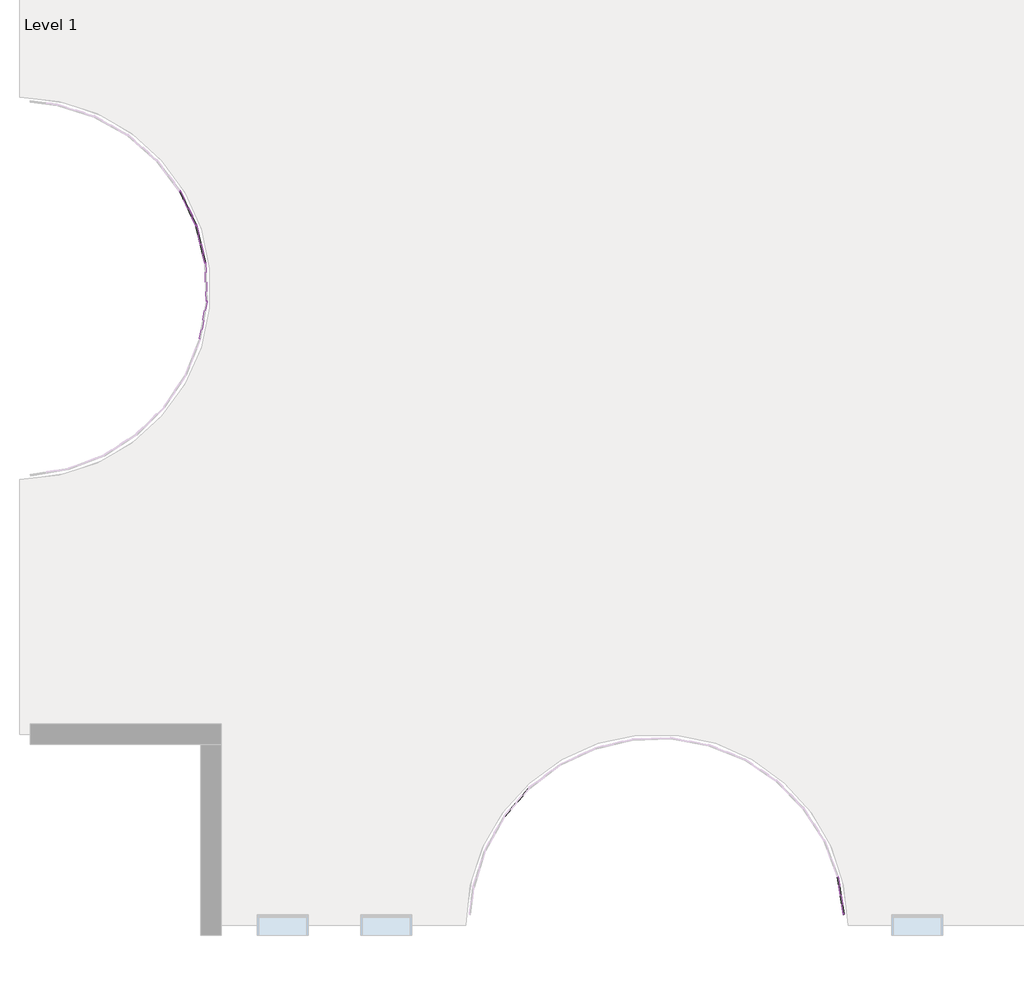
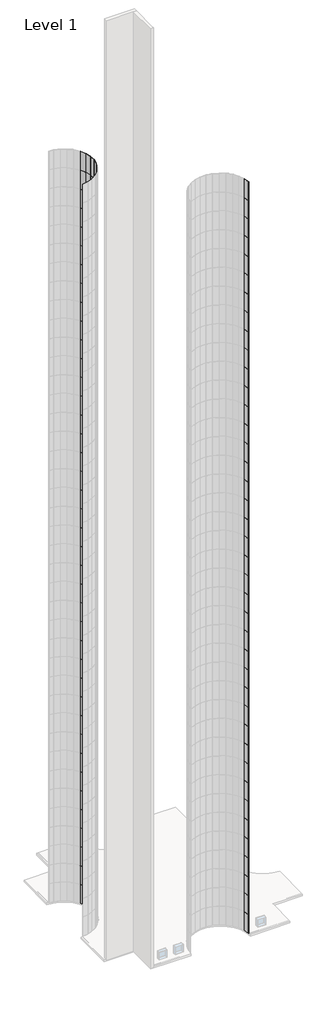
# One storey, part 6 of 19: 128 plates.
"""IFC4 building model written with IfcOpenShell, lengths in millimetres."""

from ifc_helpers import new_model, si_unit, origin, place, context, project, spatial, transform, mapped, element, save
from components import system_panel_glazed_d77d1ebf

model = new_model("IFC4")

# Units and contexts
model_context = context("Model", 3, world=origin())
ifc_project = project(units=[si_unit("LENGTHUNIT", "METRE", prefix="MILLI")], contexts=[model_context])

# Site, building, storey
site = spatial("IfcSite", under=ifc_project)
building = spatial("IfcBuilding", under=site)
storey = spatial("IfcBuildingStorey", under=building, Name="Level 1", Elevation=0.0)

# Plates
placement = place(None, origin())
system_panel_glazed_shape = system_panel_glazed_d77d1ebf(model_context)
element("IfcPlate", 1, ObjectType="System Panel : Glazed", at=placement, inside=storey, context=model_context, shape_type="MappedRepresentation", body=[
    mapped(system_panel_glazed_shape, transform((7886.1724907, -20726.1064319, 0.0), x_axis=(-0.1587098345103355, 0.9873252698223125, 0.0), y_axis=(-0.9873252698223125, -0.1587098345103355, 0.0), z_axis=(0.0, 0.0, 1.0))),
])
element("IfcPlate", 2, ObjectType="System Panel : Glazed", at=placement, inside=storey, context=model_context, shape_type="MappedRepresentation", body=[
    mapped(system_panel_glazed_shape, transform((182.349833, -18520.9170466, 0.0), x_axis=(-0.6571009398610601, -0.7538025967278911, 0.0), y_axis=(0.7538025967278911, -0.6571009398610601, 0.0), z_axis=(0.0, 0.0, 1.0))),
])
element("IfcPlate", 3, ObjectType="System Panel : Glazed", at=placement, inside=storey, context=model_context, shape_type="MappedRepresentation", body=[
    mapped(system_panel_glazed_shape, transform((7886.1724907, -20726.1064319, 3048.0), x_axis=(-0.1587098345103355, 0.9873252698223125, 0.0), y_axis=(-0.9873252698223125, -0.1587098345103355, 0.0), z_axis=(0.0, 0.0, 1.0))),
])
element("IfcPlate", 4, ObjectType="System Panel : Glazed", at=placement, inside=storey, context=model_context, shape_type="MappedRepresentation", body=[
    mapped(system_panel_glazed_shape, transform((7886.1724907, -20726.1064319, 6096.0), x_axis=(-0.1587098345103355, 0.9873252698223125, 0.0), y_axis=(-0.9873252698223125, -0.1587098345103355, 0.0), z_axis=(0.0, 0.0, 1.0))),
])
element("IfcPlate", 5, ObjectType="System Panel : Glazed", at=placement, inside=storey, context=model_context, shape_type="MappedRepresentation", body=[
    mapped(system_panel_glazed_shape, transform((7886.1724907, -20726.1064319, 9144.0), x_axis=(-0.1587098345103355, 0.9873252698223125, 0.0), y_axis=(-0.9873252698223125, -0.1587098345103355, 0.0), z_axis=(0.0, 0.0, 1.0))),
])
element("IfcPlate", 6, ObjectType="System Panel : Glazed", at=placement, inside=storey, context=model_context, shape_type="MappedRepresentation", body=[
    mapped(system_panel_glazed_shape, transform((7886.1724907, -20726.1064319, 12192.0), x_axis=(-0.1587098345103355, 0.9873252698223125, 0.0), y_axis=(-0.9873252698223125, -0.1587098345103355, 0.0), z_axis=(0.0, 0.0, 1.0))),
])
element("IfcPlate", 7, ObjectType="System Panel : Glazed", at=placement, inside=storey, context=model_context, shape_type="MappedRepresentation", body=[
    mapped(system_panel_glazed_shape, transform((7886.1724907, -20726.1064319, 15240.0), x_axis=(-0.1587098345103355, 0.9873252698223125, 0.0), y_axis=(-0.9873252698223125, -0.1587098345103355, 0.0), z_axis=(0.0, 0.0, 1.0))),
])
element("IfcPlate", 8, ObjectType="System Panel : Glazed", at=placement, inside=storey, context=model_context, shape_type="MappedRepresentation", body=[
    mapped(system_panel_glazed_shape, transform((7886.1724907, -20726.1064319, 18288.0), x_axis=(-0.15870983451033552, 0.9873252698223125, 0.0), y_axis=(-0.9873252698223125, -0.15870983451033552, 0.0), z_axis=(0.0, 0.0, 1.0))),
])
element("IfcPlate", 9, ObjectType="System Panel : Glazed", at=placement, inside=storey, context=model_context, shape_type="MappedRepresentation", body=[
    mapped(system_panel_glazed_shape, transform((7886.1724907, -20726.1064319, 21336.0), x_axis=(-0.1587098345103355, 0.9873252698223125, 0.0), y_axis=(-0.9873252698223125, -0.1587098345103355, 0.0), z_axis=(0.0, 0.0, 1.0))),
])
element("IfcPlate", 10, ObjectType="System Panel : Glazed", at=placement, inside=storey, context=model_context, shape_type="MappedRepresentation", body=[
    mapped(system_panel_glazed_shape, transform((7886.1724907, -20726.1064319, 24384.0), x_axis=(-0.1587098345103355, 0.9873252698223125, 0.0), y_axis=(-0.9873252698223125, -0.1587098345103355, 0.0), z_axis=(0.0, 0.0, 1.0))),
])
element("IfcPlate", 11, ObjectType="System Panel : Glazed", at=placement, inside=storey, context=model_context, shape_type="MappedRepresentation", body=[
    mapped(system_panel_glazed_shape, transform((7886.1724907, -20726.1064319, 27432.0), x_axis=(-0.1587098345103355, 0.9873252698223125, 0.0), y_axis=(-0.9873252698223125, -0.1587098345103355, 0.0), z_axis=(0.0, 0.0, 1.0))),
])
element("IfcPlate", 12, ObjectType="System Panel : Glazed", at=placement, inside=storey, context=model_context, shape_type="MappedRepresentation", body=[
    mapped(system_panel_glazed_shape, transform((7886.1724907, -20726.1064319, 30480.0), x_axis=(-0.1587098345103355, 0.9873252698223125, 0.0), y_axis=(-0.9873252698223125, -0.1587098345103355, 0.0), z_axis=(0.0, 0.0, 1.0))),
])
element("IfcPlate", 13, ObjectType="System Panel : Glazed", at=placement, inside=storey, context=model_context, shape_type="MappedRepresentation", body=[
    mapped(system_panel_glazed_shape, transform((7886.1724907, -20726.1064319, 33528.0), x_axis=(-0.1587098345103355, 0.9873252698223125, 0.0), y_axis=(-0.9873252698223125, -0.1587098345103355, 0.0), z_axis=(0.0, 0.0, 1.0))),
])
element("IfcPlate", 14, ObjectType="System Panel : Glazed", at=placement, inside=storey, context=model_context, shape_type="MappedRepresentation", body=[
    mapped(system_panel_glazed_shape, transform((7886.1724907, -20726.1064319, 36576.0), x_axis=(-0.1587098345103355, 0.9873252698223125, 0.0), y_axis=(-0.9873252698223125, -0.1587098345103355, 0.0), z_axis=(0.0, 0.0, 1.0))),
])
element("IfcPlate", 15, ObjectType="System Panel : Glazed", at=placement, inside=storey, context=model_context, shape_type="MappedRepresentation", body=[
    mapped(system_panel_glazed_shape, transform((7886.1724907, -20726.1064319, 39624.0), x_axis=(-0.1587098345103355, 0.9873252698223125, 0.0), y_axis=(-0.9873252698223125, -0.1587098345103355, 0.0), z_axis=(0.0, 0.0, 1.0))),
])
element("IfcPlate", 16, ObjectType="System Panel : Glazed", at=placement, inside=storey, context=model_context, shape_type="MappedRepresentation", body=[
    mapped(system_panel_glazed_shape, transform((7886.1724907, -20726.1064319, 42672.0), x_axis=(-0.1587098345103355, 0.9873252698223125, 0.0), y_axis=(-0.9873252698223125, -0.1587098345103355, 0.0), z_axis=(0.0, 0.0, 1.0))),
])
element("IfcPlate", 17, ObjectType="System Panel : Glazed", at=placement, inside=storey, context=model_context, shape_type="MappedRepresentation", body=[
    mapped(system_panel_glazed_shape, transform((7886.1724907, -20726.1064319, 45720.0), x_axis=(-0.1587098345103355, 0.9873252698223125, 0.0), y_axis=(-0.9873252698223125, -0.1587098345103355, 0.0), z_axis=(0.0, 0.0, 1.0))),
])
element("IfcPlate", 18, ObjectType="System Panel : Glazed", at=placement, inside=storey, context=model_context, shape_type="MappedRepresentation", body=[
    mapped(system_panel_glazed_shape, transform((7886.1724907, -20726.1064319, 48768.0), x_axis=(-0.1587098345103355, 0.9873252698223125, 0.0), y_axis=(-0.9873252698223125, -0.1587098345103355, 0.0), z_axis=(0.0, 0.0, 1.0))),
])
element("IfcPlate", 19, ObjectType="System Panel : Glazed", at=placement, inside=storey, context=model_context, shape_type="MappedRepresentation", body=[
    mapped(system_panel_glazed_shape, transform((7886.1724907, -20726.1064319, 51816.0), x_axis=(-0.1587098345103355, 0.9873252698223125, 0.0), y_axis=(-0.9873252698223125, -0.1587098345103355, 0.0), z_axis=(0.0, 0.0, 1.0))),
])
element("IfcPlate", 20, ObjectType="System Panel : Glazed", at=placement, inside=storey, context=model_context, shape_type="MappedRepresentation", body=[
    mapped(system_panel_glazed_shape, transform((7886.1724907, -20726.1064319, 54864.0), x_axis=(-0.1587098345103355, 0.9873252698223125, 0.0), y_axis=(-0.9873252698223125, -0.1587098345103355, 0.0), z_axis=(0.0, 0.0, 1.0))),
])
element("IfcPlate", 21, ObjectType="System Panel : Glazed", at=placement, inside=storey, context=model_context, shape_type="MappedRepresentation", body=[
    mapped(system_panel_glazed_shape, transform((7886.1724907, -20726.1064319, 57912.0), x_axis=(-0.1587098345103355, 0.9873252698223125, 0.0), y_axis=(-0.9873252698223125, -0.1587098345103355, 0.0), z_axis=(0.0, 0.0, 1.0))),
])
element("IfcPlate", 22, ObjectType="System Panel : Glazed", at=placement, inside=storey, context=model_context, shape_type="MappedRepresentation", body=[
    mapped(system_panel_glazed_shape, transform((7886.1724907, -20726.1064319, 60960.0), x_axis=(-0.1587098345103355, 0.9873252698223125, 0.0), y_axis=(-0.9873252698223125, -0.1587098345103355, 0.0), z_axis=(0.0, 0.0, 1.0))),
])
element("IfcPlate", 23, ObjectType="System Panel : Glazed", at=placement, inside=storey, context=model_context, shape_type="MappedRepresentation", body=[
    mapped(system_panel_glazed_shape, transform((7886.1724907, -20726.1064319, 64008.0), x_axis=(-0.1587098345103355, 0.9873252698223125, 0.0), y_axis=(-0.9873252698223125, -0.1587098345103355, 0.0), z_axis=(0.0, 0.0, 1.0))),
])
element("IfcPlate", 24, ObjectType="System Panel : Glazed", at=placement, inside=storey, context=model_context, shape_type="MappedRepresentation", body=[
    mapped(system_panel_glazed_shape, transform((7886.1724907, -20726.1064319, 67056.0), x_axis=(-0.1587098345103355, 0.9873252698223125, 0.0), y_axis=(-0.9873252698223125, -0.1587098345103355, 0.0), z_axis=(0.0, 0.0, 1.0))),
])
element("IfcPlate", 25, ObjectType="System Panel : Glazed", at=placement, inside=storey, context=model_context, shape_type="MappedRepresentation", body=[
    mapped(system_panel_glazed_shape, transform((7886.1724907, -20726.1064319, 70104.0), x_axis=(-0.1587098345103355, 0.9873252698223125, 0.0), y_axis=(-0.9873252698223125, -0.1587098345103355, 0.0), z_axis=(0.0, 0.0, 1.0))),
])
element("IfcPlate", 26, ObjectType="System Panel : Glazed", at=placement, inside=storey, context=model_context, shape_type="MappedRepresentation", body=[
    mapped(system_panel_glazed_shape, transform((7886.1724907, -20726.1064319, 73152.0), x_axis=(-0.1587098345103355, 0.9873252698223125, 0.0), y_axis=(-0.9873252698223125, -0.1587098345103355, 0.0), z_axis=(0.0, 0.0, 1.0))),
])
element("IfcPlate", 27, ObjectType="System Panel : Glazed", at=placement, inside=storey, context=model_context, shape_type="MappedRepresentation", body=[
    mapped(system_panel_glazed_shape, transform((7886.1724907, -20726.1064319, 76200.0), x_axis=(-0.1587098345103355, 0.9873252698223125, 0.0), y_axis=(-0.9873252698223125, -0.1587098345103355, 0.0), z_axis=(0.0, 0.0, 1.0))),
])
element("IfcPlate", 28, ObjectType="System Panel : Glazed", at=placement, inside=storey, context=model_context, shape_type="MappedRepresentation", body=[
    mapped(system_panel_glazed_shape, transform((7886.1724907, -20726.1064319, 79248.0), x_axis=(-0.1587098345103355, 0.9873252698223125, 0.0), y_axis=(-0.9873252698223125, -0.1587098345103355, 0.0), z_axis=(0.0, 0.0, 1.0))),
])
element("IfcPlate", 29, ObjectType="System Panel : Glazed", at=placement, inside=storey, context=model_context, shape_type="MappedRepresentation", body=[
    mapped(system_panel_glazed_shape, transform((7886.1724907, -20726.1064319, 82296.0), x_axis=(-0.1587098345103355, 0.9873252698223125, 0.0), y_axis=(-0.9873252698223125, -0.1587098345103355, 0.0), z_axis=(0.0, 0.0, 1.0))),
])
element("IfcPlate", 30, ObjectType="System Panel : Glazed", at=placement, inside=storey, context=model_context, shape_type="MappedRepresentation", body=[
    mapped(system_panel_glazed_shape, transform((7886.1724907, -20726.1064319, 85344.0), x_axis=(-0.1587098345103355, 0.9873252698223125, 0.0), y_axis=(-0.9873252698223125, -0.1587098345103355, 0.0), z_axis=(0.0, 0.0, 1.0))),
])
element("IfcPlate", 31, ObjectType="System Panel : Glazed", at=placement, inside=storey, context=model_context, shape_type="MappedRepresentation", body=[
    mapped(system_panel_glazed_shape, transform((7886.1724907, -20726.1064319, 88392.0), x_axis=(-0.1587098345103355, 0.9873252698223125, 0.0), y_axis=(-0.9873252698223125, -0.1587098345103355, 0.0), z_axis=(0.0, 0.0, 1.0))),
])
element("IfcPlate", 32, ObjectType="System Panel : Glazed", at=placement, inside=storey, context=model_context, shape_type="MappedRepresentation", body=[
    mapped(system_panel_glazed_shape, transform((7886.1724907, -20726.1064319, 91440.0), x_axis=(-0.1587098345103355, 0.9873252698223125, 0.0), y_axis=(-0.9873252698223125, -0.1587098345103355, 0.0), z_axis=(0.0, 0.0, 1.0))),
])
element("IfcPlate", 33, ObjectType="System Panel : Glazed", at=placement, inside=storey, context=model_context, shape_type="MappedRepresentation", body=[
    mapped(system_panel_glazed_shape, transform((7886.1724907, -20726.1064319, 94488.0), x_axis=(-0.1587098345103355, 0.9873252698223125, 0.0), y_axis=(-0.9873252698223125, -0.1587098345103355, 0.0), z_axis=(0.0, 0.0, 1.0))),
])
element("IfcPlate", 34, ObjectType="System Panel : Glazed", at=placement, inside=storey, context=model_context, shape_type="MappedRepresentation", body=[
    mapped(system_panel_glazed_shape, transform((7886.1724907, -20726.1064319, 97536.0), x_axis=(-0.1587098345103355, 0.9873252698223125, 0.0), y_axis=(-0.9873252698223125, -0.1587098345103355, 0.0), z_axis=(0.0, 0.0, 1.0))),
])
element("IfcPlate", 35, ObjectType="System Panel : Glazed", at=placement, inside=storey, context=model_context, shape_type="MappedRepresentation", body=[
    mapped(system_panel_glazed_shape, transform((7886.1724907, -20726.1064319, 100584.0), x_axis=(-0.1587098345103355, 0.9873252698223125, 0.0), y_axis=(-0.9873252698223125, -0.1587098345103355, 0.0), z_axis=(0.0, 0.0, 1.0))),
])
element("IfcPlate", 36, ObjectType="System Panel : Glazed", at=placement, inside=storey, context=model_context, shape_type="MappedRepresentation", body=[
    mapped(system_panel_glazed_shape, transform((-7420.4303916, -5153.6359648, 0.0), x_axis=(-0.23385091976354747, 0.9722724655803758, 0.0), y_axis=(-0.9722724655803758, -0.23385091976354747, 0.0), z_axis=(0.0, 0.0, 1.0))),
])
element("IfcPlate", 37, ObjectType="System Panel : Glazed", at=placement, inside=storey, context=model_context, shape_type="MappedRepresentation", body=[
    mapped(system_panel_glazed_shape, transform((-7722.9001162, -4295.8445199, 0.0), x_axis=(-0.42771890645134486, 0.9039117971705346, 0.0), y_axis=(-0.9039117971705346, -0.42771890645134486, 0.0), z_axis=(0.0, 0.0, 1.0))),
])
element("IfcPlate", 38, ObjectType="System Panel : Glazed", at=placement, inside=storey, context=model_context, shape_type="MappedRepresentation", body=[
    mapped(system_panel_glazed_shape, transform((-7420.4303916, -5153.6359648, 3048.0), x_axis=(-0.23385091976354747, 0.9722724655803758, 0.0), y_axis=(-0.9722724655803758, -0.23385091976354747, 0.0), z_axis=(0.0, 0.0, 1.0))),
])
element("IfcPlate", 39, ObjectType="System Panel : Glazed", at=placement, inside=storey, context=model_context, shape_type="MappedRepresentation", body=[
    mapped(system_panel_glazed_shape, transform((-7722.9001162, -4295.8445199, 3048.0), x_axis=(-0.42771890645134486, 0.9039117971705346, 0.0), y_axis=(-0.9039117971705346, -0.42771890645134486, 0.0), z_axis=(0.0, 0.0, 1.0))),
])
element("IfcPlate", 40, ObjectType="System Panel : Glazed", at=placement, inside=storey, context=model_context, shape_type="MappedRepresentation", body=[
    mapped(system_panel_glazed_shape, transform((-7420.4303916, -5153.6359648, 6096.0), x_axis=(-0.23385091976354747, 0.9722724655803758, 0.0), y_axis=(-0.9722724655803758, -0.23385091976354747, 0.0), z_axis=(0.0, 0.0, 1.0))),
])
element("IfcPlate", 41, ObjectType="System Panel : Glazed", at=placement, inside=storey, context=model_context, shape_type="MappedRepresentation", body=[
    mapped(system_panel_glazed_shape, transform((-7722.9001162, -4295.8445199, 6096.0), x_axis=(-0.42771890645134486, 0.9039117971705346, 0.0), y_axis=(-0.9039117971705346, -0.42771890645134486, 0.0), z_axis=(0.0, 0.0, 1.0))),
])
element("IfcPlate", 42, ObjectType="System Panel : Glazed", at=placement, inside=storey, context=model_context, shape_type="MappedRepresentation", body=[
    mapped(system_panel_glazed_shape, transform((-7420.4303916, -5153.6359648, 9144.0), x_axis=(-0.23385091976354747, 0.9722724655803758, 0.0), y_axis=(-0.9722724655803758, -0.23385091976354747, 0.0), z_axis=(0.0, 0.0, 1.0))),
])
element("IfcPlate", 43, ObjectType="System Panel : Glazed", at=placement, inside=storey, context=model_context, shape_type="MappedRepresentation", body=[
    mapped(system_panel_glazed_shape, transform((-7722.9001162, -4295.8445199, 9144.0), x_axis=(-0.42771890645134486, 0.9039117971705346, 0.0), y_axis=(-0.9039117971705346, -0.42771890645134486, 0.0), z_axis=(0.0, 0.0, 1.0))),
])
element("IfcPlate", 44, ObjectType="System Panel : Glazed", at=placement, inside=storey, context=model_context, shape_type="MappedRepresentation", body=[
    mapped(system_panel_glazed_shape, transform((-7420.4303916, -5153.6359648, 12192.0), x_axis=(-0.23385091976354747, 0.9722724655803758, 0.0), y_axis=(-0.9722724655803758, -0.23385091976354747, 0.0), z_axis=(0.0, 0.0, 1.0))),
])
element("IfcPlate", 45, ObjectType="System Panel : Glazed", at=placement, inside=storey, context=model_context, shape_type="MappedRepresentation", body=[
    mapped(system_panel_glazed_shape, transform((-7722.9001162, -4295.8445199, 12192.0), x_axis=(-0.42771890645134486, 0.9039117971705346, 0.0), y_axis=(-0.9039117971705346, -0.42771890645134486, 0.0), z_axis=(0.0, 0.0, 1.0))),
])
element("IfcPlate", 46, ObjectType="System Panel : Glazed", at=placement, inside=storey, context=model_context, shape_type="MappedRepresentation", body=[
    mapped(system_panel_glazed_shape, transform((-7420.4303916, -5153.6359648, 15240.0), x_axis=(-0.23385091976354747, 0.9722724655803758, 0.0), y_axis=(-0.9722724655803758, -0.23385091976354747, 0.0), z_axis=(0.0, 0.0, 1.0))),
])
element("IfcPlate", 47, ObjectType="System Panel : Glazed", at=placement, inside=storey, context=model_context, shape_type="MappedRepresentation", body=[
    mapped(system_panel_glazed_shape, transform((-7722.9001162, -4295.8445199, 15240.0), x_axis=(-0.42771890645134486, 0.9039117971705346, 0.0), y_axis=(-0.9039117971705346, -0.42771890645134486, 0.0), z_axis=(0.0, 0.0, 1.0))),
])
element("IfcPlate", 48, ObjectType="System Panel : Glazed", at=placement, inside=storey, context=model_context, shape_type="MappedRepresentation", body=[
    mapped(system_panel_glazed_shape, transform((-7420.4303916, -5153.6359648, 18288.0), x_axis=(-0.2338509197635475, 0.9722724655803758, 0.0), y_axis=(-0.9722724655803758, -0.2338509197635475, 0.0), z_axis=(0.0, 0.0, 1.0))),
])
element("IfcPlate", 49, ObjectType="System Panel : Glazed", at=placement, inside=storey, context=model_context, shape_type="MappedRepresentation", body=[
    mapped(system_panel_glazed_shape, transform((-7722.9001162, -4295.8445199, 18288.0), x_axis=(-0.42771890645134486, 0.9039117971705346, 0.0), y_axis=(-0.9039117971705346, -0.42771890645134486, 0.0), z_axis=(0.0, 0.0, 1.0))),
])
element("IfcPlate", 50, ObjectType="System Panel : Glazed", at=placement, inside=storey, context=model_context, shape_type="MappedRepresentation", body=[
    mapped(system_panel_glazed_shape, transform((-7420.4303916, -5153.6359648, 21336.0), x_axis=(-0.23385091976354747, 0.9722724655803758, 0.0), y_axis=(-0.9722724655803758, -0.23385091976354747, 0.0), z_axis=(0.0, 0.0, 1.0))),
])
element("IfcPlate", 51, ObjectType="System Panel : Glazed", at=placement, inside=storey, context=model_context, shape_type="MappedRepresentation", body=[
    mapped(system_panel_glazed_shape, transform((-7722.9001162, -4295.8445199, 21336.0), x_axis=(-0.42771890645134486, 0.9039117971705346, 0.0), y_axis=(-0.9039117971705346, -0.42771890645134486, 0.0), z_axis=(0.0, 0.0, 1.0))),
])
element("IfcPlate", 52, ObjectType="System Panel : Glazed", at=placement, inside=storey, context=model_context, shape_type="MappedRepresentation", body=[
    mapped(system_panel_glazed_shape, transform((-7420.4303916, -5153.6359648, 24384.0), x_axis=(-0.23385091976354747, 0.9722724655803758, 0.0), y_axis=(-0.9722724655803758, -0.23385091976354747, 0.0), z_axis=(0.0, 0.0, 1.0))),
])
element("IfcPlate", 53, ObjectType="System Panel : Glazed", at=placement, inside=storey, context=model_context, shape_type="MappedRepresentation", body=[
    mapped(system_panel_glazed_shape, transform((-7722.9001162, -4295.8445199, 24384.0), x_axis=(-0.42771890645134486, 0.9039117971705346, 0.0), y_axis=(-0.9039117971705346, -0.42771890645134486, 0.0), z_axis=(0.0, 0.0, 1.0))),
])
element("IfcPlate", 54, ObjectType="System Panel : Glazed", at=placement, inside=storey, context=model_context, shape_type="MappedRepresentation", body=[
    mapped(system_panel_glazed_shape, transform((-7420.4303916, -5153.6359648, 27432.0), x_axis=(-0.23385091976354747, 0.9722724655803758, 0.0), y_axis=(-0.9722724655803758, -0.23385091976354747, 0.0), z_axis=(0.0, 0.0, 1.0))),
])
element("IfcPlate", 55, ObjectType="System Panel : Glazed", at=placement, inside=storey, context=model_context, shape_type="MappedRepresentation", body=[
    mapped(system_panel_glazed_shape, transform((-7722.9001162, -4295.8445199, 27432.0), x_axis=(-0.42771890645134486, 0.9039117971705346, 0.0), y_axis=(-0.9039117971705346, -0.42771890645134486, 0.0), z_axis=(0.0, 0.0, 1.0))),
])
element("IfcPlate", 56, ObjectType="System Panel : Glazed", at=placement, inside=storey, context=model_context, shape_type="MappedRepresentation", body=[
    mapped(system_panel_glazed_shape, transform((-7420.4303916, -5153.6359648, 30480.0), x_axis=(-0.23385091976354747, 0.9722724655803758, 0.0), y_axis=(-0.9722724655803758, -0.23385091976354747, 0.0), z_axis=(0.0, 0.0, 1.0))),
])
element("IfcPlate", 57, ObjectType="System Panel : Glazed", at=placement, inside=storey, context=model_context, shape_type="MappedRepresentation", body=[
    mapped(system_panel_glazed_shape, transform((-7722.9001162, -4295.8445199, 30480.0), x_axis=(-0.42771890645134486, 0.9039117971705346, 0.0), y_axis=(-0.9039117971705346, -0.42771890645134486, 0.0), z_axis=(0.0, 0.0, 1.0))),
])
element("IfcPlate", 58, ObjectType="System Panel : Glazed", at=placement, inside=storey, context=model_context, shape_type="MappedRepresentation", body=[
    mapped(system_panel_glazed_shape, transform((-7420.4303916, -5153.6359648, 33528.0), x_axis=(-0.23385091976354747, 0.9722724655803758, 0.0), y_axis=(-0.9722724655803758, -0.23385091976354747, 0.0), z_axis=(0.0, 0.0, 1.0))),
])
element("IfcPlate", 59, ObjectType="System Panel : Glazed", at=placement, inside=storey, context=model_context, shape_type="MappedRepresentation", body=[
    mapped(system_panel_glazed_shape, transform((-7722.9001162, -4295.8445199, 33528.0), x_axis=(-0.42771890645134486, 0.9039117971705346, 0.0), y_axis=(-0.9039117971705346, -0.42771890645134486, 0.0), z_axis=(0.0, 0.0, 1.0))),
])
element("IfcPlate", 60, ObjectType="System Panel : Glazed", at=placement, inside=storey, context=model_context, shape_type="MappedRepresentation", body=[
    mapped(system_panel_glazed_shape, transform((-7420.4303916, -5153.6359648, 36576.0), x_axis=(-0.23385091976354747, 0.9722724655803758, 0.0), y_axis=(-0.9722724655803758, -0.23385091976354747, 0.0), z_axis=(0.0, 0.0, 1.0))),
])
element("IfcPlate", 61, ObjectType="System Panel : Glazed", at=placement, inside=storey, context=model_context, shape_type="MappedRepresentation", body=[
    mapped(system_panel_glazed_shape, transform((-7722.9001162, -4295.8445199, 36576.0), x_axis=(-0.42771890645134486, 0.9039117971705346, 0.0), y_axis=(-0.9039117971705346, -0.42771890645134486, 0.0), z_axis=(0.0, 0.0, 1.0))),
])
element("IfcPlate", 62, ObjectType="System Panel : Glazed", at=placement, inside=storey, context=model_context, shape_type="MappedRepresentation", body=[
    mapped(system_panel_glazed_shape, transform((-7420.4303916, -5153.6359648, 39624.0), x_axis=(-0.23385091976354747, 0.9722724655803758, 0.0), y_axis=(-0.9722724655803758, -0.23385091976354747, 0.0), z_axis=(0.0, 0.0, 1.0))),
])
element("IfcPlate", 63, ObjectType="System Panel : Glazed", at=placement, inside=storey, context=model_context, shape_type="MappedRepresentation", body=[
    mapped(system_panel_glazed_shape, transform((-7722.9001162, -4295.8445199, 39624.0), x_axis=(-0.42771890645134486, 0.9039117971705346, 0.0), y_axis=(-0.9039117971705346, -0.42771890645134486, 0.0), z_axis=(0.0, 0.0, 1.0))),
])
element("IfcPlate", 64, ObjectType="System Panel : Glazed", at=placement, inside=storey, context=model_context, shape_type="MappedRepresentation", body=[
    mapped(system_panel_glazed_shape, transform((-7420.4303916, -5153.6359648, 42672.0), x_axis=(-0.23385091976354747, 0.9722724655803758, 0.0), y_axis=(-0.9722724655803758, -0.23385091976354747, 0.0), z_axis=(0.0, 0.0, 1.0))),
])
element("IfcPlate", 65, ObjectType="System Panel : Glazed", at=placement, inside=storey, context=model_context, shape_type="MappedRepresentation", body=[
    mapped(system_panel_glazed_shape, transform((-7722.9001162, -4295.8445199, 42672.0), x_axis=(-0.42771890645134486, 0.9039117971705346, 0.0), y_axis=(-0.9039117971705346, -0.42771890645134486, 0.0), z_axis=(0.0, 0.0, 1.0))),
])
element("IfcPlate", 66, ObjectType="System Panel : Glazed", at=placement, inside=storey, context=model_context, shape_type="MappedRepresentation", body=[
    mapped(system_panel_glazed_shape, transform((-7420.4303916, -5153.6359648, 45720.0), x_axis=(-0.23385091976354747, 0.9722724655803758, 0.0), y_axis=(-0.9722724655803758, -0.23385091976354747, 0.0), z_axis=(0.0, 0.0, 1.0))),
])
element("IfcPlate", 67, ObjectType="System Panel : Glazed", at=placement, inside=storey, context=model_context, shape_type="MappedRepresentation", body=[
    mapped(system_panel_glazed_shape, transform((-7722.9001162, -4295.8445199, 45720.0), x_axis=(-0.42771890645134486, 0.9039117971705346, 0.0), y_axis=(-0.9039117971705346, -0.42771890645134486, 0.0), z_axis=(0.0, 0.0, 1.0))),
])
element("IfcPlate", 68, ObjectType="System Panel : Glazed", at=placement, inside=storey, context=model_context, shape_type="MappedRepresentation", body=[
    mapped(system_panel_glazed_shape, transform((-7420.4303916, -5153.6359648, 48768.0), x_axis=(-0.23385091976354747, 0.9722724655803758, 0.0), y_axis=(-0.9722724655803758, -0.23385091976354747, 0.0), z_axis=(0.0, 0.0, 1.0))),
])
element("IfcPlate", 69, ObjectType="System Panel : Glazed", at=placement, inside=storey, context=model_context, shape_type="MappedRepresentation", body=[
    mapped(system_panel_glazed_shape, transform((-7722.9001162, -4295.8445199, 48768.0), x_axis=(-0.42771890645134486, 0.9039117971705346, 0.0), y_axis=(-0.9039117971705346, -0.42771890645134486, 0.0), z_axis=(0.0, 0.0, 1.0))),
])
element("IfcPlate", 70, ObjectType="System Panel : Glazed", at=placement, inside=storey, context=model_context, shape_type="MappedRepresentation", body=[
    mapped(system_panel_glazed_shape, transform((-7420.4303916, -5153.6359648, 51816.0), x_axis=(-0.23385091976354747, 0.9722724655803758, 0.0), y_axis=(-0.9722724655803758, -0.23385091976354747, 0.0), z_axis=(0.0, 0.0, 1.0))),
])
element("IfcPlate", 71, ObjectType="System Panel : Glazed", at=placement, inside=storey, context=model_context, shape_type="MappedRepresentation", body=[
    mapped(system_panel_glazed_shape, transform((-7722.9001162, -4295.8445199, 51816.0), x_axis=(-0.42771890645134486, 0.9039117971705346, 0.0), y_axis=(-0.9039117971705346, -0.42771890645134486, 0.0), z_axis=(0.0, 0.0, 1.0))),
])
element("IfcPlate", 72, ObjectType="System Panel : Glazed", at=placement, inside=storey, context=model_context, shape_type="MappedRepresentation", body=[
    mapped(system_panel_glazed_shape, transform((-7420.4303916, -5153.6359648, 54864.0), x_axis=(-0.23385091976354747, 0.9722724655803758, 0.0), y_axis=(-0.9722724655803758, -0.23385091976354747, 0.0), z_axis=(0.0, 0.0, 1.0))),
])
element("IfcPlate", 73, ObjectType="System Panel : Glazed", at=placement, inside=storey, context=model_context, shape_type="MappedRepresentation", body=[
    mapped(system_panel_glazed_shape, transform((-7722.9001162, -4295.8445199, 54864.0), x_axis=(-0.42771890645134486, 0.9039117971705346, 0.0), y_axis=(-0.9039117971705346, -0.42771890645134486, 0.0), z_axis=(0.0, 0.0, 1.0))),
])
element("IfcPlate", 74, ObjectType="System Panel : Glazed", at=placement, inside=storey, context=model_context, shape_type="MappedRepresentation", body=[
    mapped(system_panel_glazed_shape, transform((-7420.4303916, -5153.6359648, 57912.0), x_axis=(-0.23385091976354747, 0.9722724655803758, 0.0), y_axis=(-0.9722724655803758, -0.23385091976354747, 0.0), z_axis=(0.0, 0.0, 1.0))),
])
element("IfcPlate", 75, ObjectType="System Panel : Glazed", at=placement, inside=storey, context=model_context, shape_type="MappedRepresentation", body=[
    mapped(system_panel_glazed_shape, transform((-7722.9001162, -4295.8445199, 57912.0), x_axis=(-0.42771890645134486, 0.9039117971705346, 0.0), y_axis=(-0.9039117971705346, -0.42771890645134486, 0.0), z_axis=(0.0, 0.0, 1.0))),
])
element("IfcPlate", 76, ObjectType="System Panel : Glazed", at=placement, inside=storey, context=model_context, shape_type="MappedRepresentation", body=[
    mapped(system_panel_glazed_shape, transform((-7420.4303916, -5153.6359648, 60960.0), x_axis=(-0.23385091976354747, 0.9722724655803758, 0.0), y_axis=(-0.9722724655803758, -0.23385091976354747, 0.0), z_axis=(0.0, 0.0, 1.0))),
])
element("IfcPlate", 77, ObjectType="System Panel : Glazed", at=placement, inside=storey, context=model_context, shape_type="MappedRepresentation", body=[
    mapped(system_panel_glazed_shape, transform((-7722.9001162, -4295.8445199, 60960.0), x_axis=(-0.42771890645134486, 0.9039117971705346, 0.0), y_axis=(-0.9039117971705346, -0.42771890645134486, 0.0), z_axis=(0.0, 0.0, 1.0))),
])
element("IfcPlate", 78, ObjectType="System Panel : Glazed", at=placement, inside=storey, context=model_context, shape_type="MappedRepresentation", body=[
    mapped(system_panel_glazed_shape, transform((-7420.4303916, -5153.6359648, 64008.0), x_axis=(-0.23385091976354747, 0.9722724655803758, 0.0), y_axis=(-0.9722724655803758, -0.23385091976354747, 0.0), z_axis=(0.0, 0.0, 1.0))),
])
element("IfcPlate", 79, ObjectType="System Panel : Glazed", at=placement, inside=storey, context=model_context, shape_type="MappedRepresentation", body=[
    mapped(system_panel_glazed_shape, transform((-7722.9001162, -4295.8445199, 64008.0), x_axis=(-0.42771890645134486, 0.9039117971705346, 0.0), y_axis=(-0.9039117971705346, -0.42771890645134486, 0.0), z_axis=(0.0, 0.0, 1.0))),
])
element("IfcPlate", 80, ObjectType="System Panel : Glazed", at=placement, inside=storey, context=model_context, shape_type="MappedRepresentation", body=[
    mapped(system_panel_glazed_shape, transform((-7420.4303916, -5153.6359648, 67056.0), x_axis=(-0.23385091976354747, 0.9722724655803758, 0.0), y_axis=(-0.9722724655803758, -0.23385091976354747, 0.0), z_axis=(0.0, 0.0, 1.0))),
])
element("IfcPlate", 81, ObjectType="System Panel : Glazed", at=placement, inside=storey, context=model_context, shape_type="MappedRepresentation", body=[
    mapped(system_panel_glazed_shape, transform((-7722.9001162, -4295.8445199, 67056.0), x_axis=(-0.42771890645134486, 0.9039117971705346, 0.0), y_axis=(-0.9039117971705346, -0.42771890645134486, 0.0), z_axis=(0.0, 0.0, 1.0))),
])
element("IfcPlate", 82, ObjectType="System Panel : Glazed", at=placement, inside=storey, context=model_context, shape_type="MappedRepresentation", body=[
    mapped(system_panel_glazed_shape, transform((-7420.4303916, -5153.6359648, 70104.0), x_axis=(-0.23385091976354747, 0.9722724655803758, 0.0), y_axis=(-0.9722724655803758, -0.23385091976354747, 0.0), z_axis=(0.0, 0.0, 1.0))),
])
element("IfcPlate", 83, ObjectType="System Panel : Glazed", at=placement, inside=storey, context=model_context, shape_type="MappedRepresentation", body=[
    mapped(system_panel_glazed_shape, transform((-7722.9001162, -4295.8445199, 70104.0), x_axis=(-0.42771890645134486, 0.9039117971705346, 0.0), y_axis=(-0.9039117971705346, -0.42771890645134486, 0.0), z_axis=(0.0, 0.0, 1.0))),
])
element("IfcPlate", 84, ObjectType="System Panel : Glazed", at=placement, inside=storey, context=model_context, shape_type="MappedRepresentation", body=[
    mapped(system_panel_glazed_shape, transform((-7420.4303916, -5153.6359648, 73152.0), x_axis=(-0.23385091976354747, 0.9722724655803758, 0.0), y_axis=(-0.9722724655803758, -0.23385091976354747, 0.0), z_axis=(0.0, 0.0, 1.0))),
])
element("IfcPlate", 85, ObjectType="System Panel : Glazed", at=placement, inside=storey, context=model_context, shape_type="MappedRepresentation", body=[
    mapped(system_panel_glazed_shape, transform((-7722.9001162, -4295.8445199, 73152.0), x_axis=(-0.42771890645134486, 0.9039117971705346, 0.0), y_axis=(-0.9039117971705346, -0.42771890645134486, 0.0), z_axis=(0.0, 0.0, 1.0))),
])
element("IfcPlate", 86, ObjectType="System Panel : Glazed", at=placement, inside=storey, context=model_context, shape_type="MappedRepresentation", body=[
    mapped(system_panel_glazed_shape, transform((-7420.4303916, -5153.6359648, 76200.0), x_axis=(-0.23385091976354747, 0.9722724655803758, 0.0), y_axis=(-0.9722724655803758, -0.23385091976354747, 0.0), z_axis=(0.0, 0.0, 1.0))),
])
element("IfcPlate", 87, ObjectType="System Panel : Glazed", at=placement, inside=storey, context=model_context, shape_type="MappedRepresentation", body=[
    mapped(system_panel_glazed_shape, transform((-7722.9001162, -4295.8445199, 76200.0), x_axis=(-0.42771890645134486, 0.9039117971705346, 0.0), y_axis=(-0.9039117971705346, -0.42771890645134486, 0.0), z_axis=(0.0, 0.0, 1.0))),
])
element("IfcPlate", 88, ObjectType="System Panel : Glazed", at=placement, inside=storey, context=model_context, shape_type="MappedRepresentation", body=[
    mapped(system_panel_glazed_shape, transform((-7420.4303916, -5153.6359648, 79248.0), x_axis=(-0.23385091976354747, 0.9722724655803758, 0.0), y_axis=(-0.9722724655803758, -0.23385091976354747, 0.0), z_axis=(0.0, 0.0, 1.0))),
])
element("IfcPlate", 89, ObjectType="System Panel : Glazed", at=placement, inside=storey, context=model_context, shape_type="MappedRepresentation", body=[
    mapped(system_panel_glazed_shape, transform((-7722.9001162, -4295.8445199, 79248.0), x_axis=(-0.42771890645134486, 0.9039117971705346, 0.0), y_axis=(-0.9039117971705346, -0.42771890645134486, 0.0), z_axis=(0.0, 0.0, 1.0))),
])
element("IfcPlate", 90, ObjectType="System Panel : Glazed", at=placement, inside=storey, context=model_context, shape_type="MappedRepresentation", body=[
    mapped(system_panel_glazed_shape, transform((-7420.4303916, -5153.6359648, 82296.0), x_axis=(-0.23385091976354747, 0.9722724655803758, 0.0), y_axis=(-0.9722724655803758, -0.23385091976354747, 0.0), z_axis=(0.0, 0.0, 1.0))),
])
element("IfcPlate", 91, ObjectType="System Panel : Glazed", at=placement, inside=storey, context=model_context, shape_type="MappedRepresentation", body=[
    mapped(system_panel_glazed_shape, transform((-7722.9001162, -4295.8445199, 82296.0), x_axis=(-0.42771890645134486, 0.9039117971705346, 0.0), y_axis=(-0.9039117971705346, -0.42771890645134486, 0.0), z_axis=(0.0, 0.0, 1.0))),
])
element("IfcPlate", 92, ObjectType="System Panel : Glazed", at=placement, inside=storey, context=model_context, shape_type="MappedRepresentation", body=[
    mapped(system_panel_glazed_shape, transform((-7420.4303916, -5153.6359648, 85344.0), x_axis=(-0.23385091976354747, 0.9722724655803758, 0.0), y_axis=(-0.9722724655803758, -0.23385091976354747, 0.0), z_axis=(0.0, 0.0, 1.0))),
])
element("IfcPlate", 93, ObjectType="System Panel : Glazed", at=placement, inside=storey, context=model_context, shape_type="MappedRepresentation", body=[
    mapped(system_panel_glazed_shape, transform((-7722.9001162, -4295.8445199, 85344.0), x_axis=(-0.42771890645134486, 0.9039117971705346, 0.0), y_axis=(-0.9039117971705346, -0.42771890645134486, 0.0), z_axis=(0.0, 0.0, 1.0))),
])
element("IfcPlate", 94, ObjectType="System Panel : Glazed", at=placement, inside=storey, context=model_context, shape_type="MappedRepresentation", body=[
    mapped(system_panel_glazed_shape, transform((-7420.4303916, -5153.6359648, 88392.0), x_axis=(-0.23385091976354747, 0.9722724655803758, 0.0), y_axis=(-0.9722724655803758, -0.23385091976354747, 0.0), z_axis=(0.0, 0.0, 1.0))),
])
element("IfcPlate", 95, ObjectType="System Panel : Glazed", at=placement, inside=storey, context=model_context, shape_type="MappedRepresentation", body=[
    mapped(system_panel_glazed_shape, transform((-7722.9001162, -4295.8445199, 88392.0), x_axis=(-0.42771890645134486, 0.9039117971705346, 0.0), y_axis=(-0.9039117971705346, -0.42771890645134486, 0.0), z_axis=(0.0, 0.0, 1.0))),
])
element("IfcPlate", 96, ObjectType="System Panel : Glazed", at=placement, inside=storey, context=model_context, shape_type="MappedRepresentation", body=[
    mapped(system_panel_glazed_shape, transform((-7420.4303916, -5153.6359648, 91440.0), x_axis=(-0.23385091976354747, 0.9722724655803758, 0.0), y_axis=(-0.9722724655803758, -0.23385091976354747, 0.0), z_axis=(0.0, 0.0, 1.0))),
])
element("IfcPlate", 97, ObjectType="System Panel : Glazed", at=placement, inside=storey, context=model_context, shape_type="MappedRepresentation", body=[
    mapped(system_panel_glazed_shape, transform((-7722.9001162, -4295.8445199, 91440.0), x_axis=(-0.42771890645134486, 0.9039117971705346, 0.0), y_axis=(-0.9039117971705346, -0.42771890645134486, 0.0), z_axis=(0.0, 0.0, 1.0))),
])
element("IfcPlate", 98, ObjectType="System Panel : Glazed", at=placement, inside=storey, context=model_context, shape_type="MappedRepresentation", body=[
    mapped(system_panel_glazed_shape, transform((-7420.4303916, -5153.6359648, 94488.0), x_axis=(-0.23385091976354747, 0.9722724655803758, 0.0), y_axis=(-0.9722724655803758, -0.23385091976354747, 0.0), z_axis=(0.0, 0.0, 1.0))),
])
element("IfcPlate", 99, ObjectType="System Panel : Glazed", at=placement, inside=storey, context=model_context, shape_type="MappedRepresentation", body=[
    mapped(system_panel_glazed_shape, transform((-7722.9001162, -4295.8445199, 94488.0), x_axis=(-0.42771890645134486, 0.9039117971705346, 0.0), y_axis=(-0.9039117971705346, -0.42771890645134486, 0.0), z_axis=(0.0, 0.0, 1.0))),
])
element("IfcPlate", 100, ObjectType="System Panel : Glazed", at=placement, inside=storey, context=model_context, shape_type="MappedRepresentation", body=[
    mapped(system_panel_glazed_shape, transform((-7420.4303916, -5153.6359648, 97536.0), x_axis=(-0.23385091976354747, 0.9722724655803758, 0.0), y_axis=(-0.9722724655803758, -0.23385091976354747, 0.0), z_axis=(0.0, 0.0, 1.0))),
])
element("IfcPlate", 101, ObjectType="System Panel : Glazed", at=placement, inside=storey, context=model_context, shape_type="MappedRepresentation", body=[
    mapped(system_panel_glazed_shape, transform((-7722.9001162, -4295.8445199, 97536.0), x_axis=(-0.42771890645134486, 0.9039117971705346, 0.0), y_axis=(-0.9039117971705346, -0.42771890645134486, 0.0), z_axis=(0.0, 0.0, 1.0))),
])
element("IfcPlate", 102, ObjectType="System Panel : Glazed", at=placement, inside=storey, context=model_context, shape_type="MappedRepresentation", body=[
    mapped(system_panel_glazed_shape, transform((-7420.4303916, -5153.6359648, 100584.0), x_axis=(-0.23385091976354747, 0.9722724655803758, 0.0), y_axis=(-0.9722724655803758, -0.23385091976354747, 0.0), z_axis=(0.0, 0.0, 1.0))),
])
element("IfcPlate", 103, ObjectType="System Panel : Glazed", at=placement, inside=storey, context=model_context, shape_type="MappedRepresentation", body=[
    mapped(system_panel_glazed_shape, transform((-7722.9001162, -4295.8445199, 100584.0), x_axis=(-0.42771890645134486, 0.9039117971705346, 0.0), y_axis=(-0.9039117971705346, -0.42771890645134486, 0.0), z_axis=(0.0, 0.0, 1.0))),
])
element("IfcPlate", 104, ObjectType="System Panel : Glazed", at=placement, inside=storey, context=model_context, shape_type="MappedRepresentation", body=[
    mapped(system_panel_glazed_shape, transform((7886.1724907, -20726.1064319, 103632.0), x_axis=(-0.1587098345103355, 0.9873252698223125, 0.0), y_axis=(-0.9873252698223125, -0.1587098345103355, 0.0), z_axis=(0.0, 0.0, 1.0))),
])
element("IfcPlate", 105, ObjectType="System Panel : Glazed", at=placement, inside=storey, context=model_context, shape_type="MappedRepresentation", body=[
    mapped(system_panel_glazed_shape, transform((7886.1724907, -20726.1064319, 106680.0), x_axis=(-0.1587098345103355, 0.9873252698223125, 0.0), y_axis=(-0.9873252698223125, -0.1587098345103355, 0.0), z_axis=(0.0, 0.0, 1.0))),
])
element("IfcPlate", 106, ObjectType="System Panel : Glazed", at=placement, inside=storey, context=model_context, shape_type="MappedRepresentation", body=[
    mapped(system_panel_glazed_shape, transform((7886.1724907, -20726.1064319, 109728.0), x_axis=(-0.1587098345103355, 0.9873252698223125, 0.0), y_axis=(-0.9873252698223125, -0.1587098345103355, 0.0), z_axis=(0.0, 0.0, 1.0))),
])
element("IfcPlate", 107, ObjectType="System Panel : Glazed", at=placement, inside=storey, context=model_context, shape_type="MappedRepresentation", body=[
    mapped(system_panel_glazed_shape, transform((7886.1724907, -20726.1064319, 112776.0), x_axis=(-0.1587098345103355, 0.9873252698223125, 0.0), y_axis=(-0.9873252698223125, -0.1587098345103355, 0.0), z_axis=(0.0, 0.0, 1.0))),
])
element("IfcPlate", 108, ObjectType="System Panel : Glazed", at=placement, inside=storey, context=model_context, shape_type="MappedRepresentation", body=[
    mapped(system_panel_glazed_shape, transform((7886.1724907, -20726.1064319, 115824.0), x_axis=(-0.1587098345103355, 0.9873252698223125, 0.0), y_axis=(-0.9873252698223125, -0.1587098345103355, 0.0), z_axis=(0.0, 0.0, 1.0))),
])
element("IfcPlate", 109, ObjectType="System Panel : Glazed", at=placement, inside=storey, context=model_context, shape_type="MappedRepresentation", body=[
    mapped(system_panel_glazed_shape, transform((7886.1724907, -20726.1064319, 118872.0), x_axis=(-0.1587098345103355, 0.9873252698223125, 0.0), y_axis=(-0.9873252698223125, -0.1587098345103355, 0.0), z_axis=(0.0, 0.0, 1.0))),
])
element("IfcPlate", 110, ObjectType="System Panel : Glazed", at=placement, inside=storey, context=model_context, shape_type="MappedRepresentation", body=[
    mapped(system_panel_glazed_shape, transform((-7420.4303916, -5153.6359648, 103632.0), x_axis=(-0.23385091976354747, 0.9722724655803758, 0.0), y_axis=(-0.9722724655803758, -0.23385091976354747, 0.0), z_axis=(0.0, 0.0, 1.0))),
])
element("IfcPlate", 111, ObjectType="System Panel : Glazed", at=placement, inside=storey, context=model_context, shape_type="MappedRepresentation", body=[
    mapped(system_panel_glazed_shape, transform((-7722.9001162, -4295.8445199, 103632.0), x_axis=(-0.42771890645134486, 0.9039117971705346, 0.0), y_axis=(-0.9039117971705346, -0.42771890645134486, 0.0), z_axis=(0.0, 0.0, 1.0))),
])
element("IfcPlate", 112, ObjectType="System Panel : Glazed", at=placement, inside=storey, context=model_context, shape_type="MappedRepresentation", body=[
    mapped(system_panel_glazed_shape, transform((-7420.4303916, -5153.6359648, 106680.0), x_axis=(-0.23385091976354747, 0.9722724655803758, 0.0), y_axis=(-0.9722724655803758, -0.23385091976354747, 0.0), z_axis=(0.0, 0.0, 1.0))),
])
element("IfcPlate", 113, ObjectType="System Panel : Glazed", at=placement, inside=storey, context=model_context, shape_type="MappedRepresentation", body=[
    mapped(system_panel_glazed_shape, transform((-7722.9001162, -4295.8445199, 106680.0), x_axis=(-0.42771890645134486, 0.9039117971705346, 0.0), y_axis=(-0.9039117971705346, -0.42771890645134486, 0.0), z_axis=(0.0, 0.0, 1.0))),
])
element("IfcPlate", 114, ObjectType="System Panel : Glazed", at=placement, inside=storey, context=model_context, shape_type="MappedRepresentation", body=[
    mapped(system_panel_glazed_shape, transform((-7299.7516351, -6055.1517633, 109728.0), x_axis=(-0.03010086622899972, 0.9995468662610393, 0.0), y_axis=(-0.9995468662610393, -0.03010086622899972, 0.0), z_axis=(0.0, 0.0, 1.0))),
])
element("IfcPlate", 115, ObjectType="System Panel : Glazed", at=placement, inside=storey, context=model_context, shape_type="MappedRepresentation", body=[
    mapped(system_panel_glazed_shape, transform((-7420.4303916, -5153.6359648, 109728.0), x_axis=(-0.23385091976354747, 0.9722724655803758, 0.0), y_axis=(-0.9722724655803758, -0.23385091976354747, 0.0), z_axis=(0.0, 0.0, 1.0))),
])
element("IfcPlate", 116, ObjectType="System Panel : Glazed", at=placement, inside=storey, context=model_context, shape_type="MappedRepresentation", body=[
    mapped(system_panel_glazed_shape, transform((-7722.9001162, -4295.8445199, 109728.0), x_axis=(-0.42771890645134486, 0.9039117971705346, 0.0), y_axis=(-0.9039117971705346, -0.42771890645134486, 0.0), z_axis=(0.0, 0.0, 1.0))),
])
element("IfcPlate", 117, ObjectType="System Panel : Glazed", at=placement, inside=storey, context=model_context, shape_type="MappedRepresentation", body=[
    mapped(system_panel_glazed_shape, transform((-7365.9634866, -6962.2956813, 112776.0), x_axis=(0.17492118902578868, 0.9845824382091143, 0.0), y_axis=(-0.9845824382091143, 0.17492118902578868, 0.0), z_axis=(0.0, 0.0, 1.0))),
])
element("IfcPlate", 118, ObjectType="System Panel : Glazed", at=placement, inside=storey, context=model_context, shape_type="MappedRepresentation", body=[
    mapped(system_panel_glazed_shape, transform((-7299.7516351, -6055.1517633, 112776.0), x_axis=(-0.03010086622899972, 0.9995468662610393, 0.0), y_axis=(-0.9995468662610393, -0.03010086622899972, 0.0), z_axis=(0.0, 0.0, 1.0))),
])
element("IfcPlate", 119, ObjectType="System Panel : Glazed", at=placement, inside=storey, context=model_context, shape_type="MappedRepresentation", body=[
    mapped(system_panel_glazed_shape, transform((-7420.4303916, -5153.6359648, 112776.0), x_axis=(-0.23385091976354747, 0.9722724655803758, 0.0), y_axis=(-0.9722724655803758, -0.23385091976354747, 0.0), z_axis=(0.0, 0.0, 1.0))),
])
element("IfcPlate", 120, ObjectType="System Panel : Glazed", at=placement, inside=storey, context=model_context, shape_type="MappedRepresentation", body=[
    mapped(system_panel_glazed_shape, transform((-7722.9001162, -4295.8445199, 112776.0), x_axis=(-0.42771890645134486, 0.9039117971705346, 0.0), y_axis=(-0.9039117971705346, -0.42771890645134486, 0.0), z_axis=(0.0, 0.0, 1.0))),
])
element("IfcPlate", 121, ObjectType="System Panel : Glazed", at=placement, inside=storey, context=model_context, shape_type="MappedRepresentation", body=[
    mapped(system_panel_glazed_shape, transform((-7365.9634866, -6962.2956813, 115824.0), x_axis=(0.17492118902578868, 0.9845824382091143, 0.0), y_axis=(-0.9845824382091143, 0.17492118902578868, 0.0), z_axis=(0.0, 0.0, 1.0))),
])
element("IfcPlate", 122, ObjectType="System Panel : Glazed", at=placement, inside=storey, context=model_context, shape_type="MappedRepresentation", body=[
    mapped(system_panel_glazed_shape, transform((-7299.7516351, -6055.1517633, 115824.0), x_axis=(-0.03010086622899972, 0.9995468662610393, 0.0), y_axis=(-0.9995468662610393, -0.03010086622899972, 0.0), z_axis=(0.0, 0.0, 1.0))),
])
element("IfcPlate", 123, ObjectType="System Panel : Glazed", at=placement, inside=storey, context=model_context, shape_type="MappedRepresentation", body=[
    mapped(system_panel_glazed_shape, transform((-7420.4303916, -5153.6359648, 115824.0), x_axis=(-0.23385091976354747, 0.9722724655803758, 0.0), y_axis=(-0.9722724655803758, -0.23385091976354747, 0.0), z_axis=(0.0, 0.0, 1.0))),
])
element("IfcPlate", 124, ObjectType="System Panel : Glazed", at=placement, inside=storey, context=model_context, shape_type="MappedRepresentation", body=[
    mapped(system_panel_glazed_shape, transform((-7722.9001162, -4295.8445199, 115824.0), x_axis=(-0.42771890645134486, 0.9039117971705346, 0.0), y_axis=(-0.9039117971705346, -0.42771890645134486, 0.0), z_axis=(0.0, 0.0, 1.0))),
])
element("IfcPlate", 125, ObjectType="System Panel : Glazed", at=placement, inside=storey, context=model_context, shape_type="MappedRepresentation", body=[
    mapped(system_panel_glazed_shape, transform((-7365.9634866, -6962.2956813, 118872.0), x_axis=(0.17492118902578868, 0.9845824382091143, 0.0), y_axis=(-0.9845824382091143, 0.17492118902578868, 0.0), z_axis=(0.0, 0.0, 1.0))),
])
element("IfcPlate", 126, ObjectType="System Panel : Glazed", at=placement, inside=storey, context=model_context, shape_type="MappedRepresentation", body=[
    mapped(system_panel_glazed_shape, transform((-7299.7516351, -6055.1517633, 118872.0), x_axis=(-0.03010086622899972, 0.9995468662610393, 0.0), y_axis=(-0.9995468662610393, -0.03010086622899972, 0.0), z_axis=(0.0, 0.0, 1.0))),
])
element("IfcPlate", 127, ObjectType="System Panel : Glazed", at=placement, inside=storey, context=model_context, shape_type="MappedRepresentation", body=[
    mapped(system_panel_glazed_shape, transform((-7420.4303916, -5153.6359648, 118872.0), x_axis=(-0.23385091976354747, 0.9722724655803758, 0.0), y_axis=(-0.9722724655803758, -0.23385091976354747, 0.0), z_axis=(0.0, 0.0, 1.0))),
])
element("IfcPlate", 128, ObjectType="System Panel : Glazed", at=placement, inside=storey, context=model_context, shape_type="MappedRepresentation", body=[
    mapped(system_panel_glazed_shape, transform((-7722.9001162, -4295.8445199, 118872.0), x_axis=(-0.42771890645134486, 0.9039117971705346, 0.0), y_axis=(-0.9039117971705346, -0.42771890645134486, 0.0), z_axis=(0.0, 0.0, 1.0))),
])

save(model, "model.ifc")
